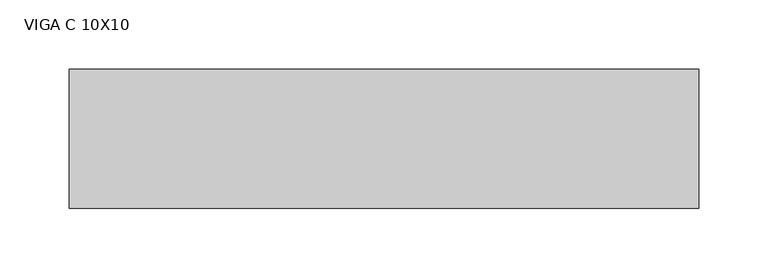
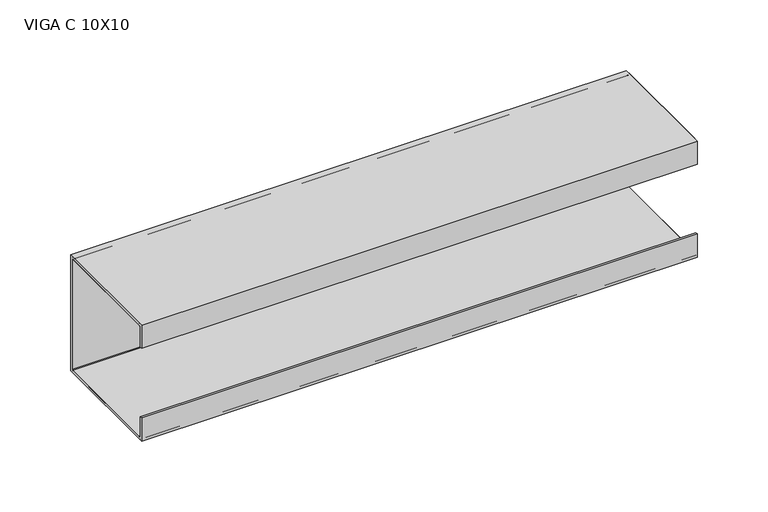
"""IFC4 building model written with IfcOpenShell, lengths in millimetres: beam geometry, VIGA PERFIL C AÇO : VIGA C 10X10."""

from ifc_helpers import new_model, si_unit, point, frame, frame_2d, origin, place, context, project, spatial, polyline, circle_curve, trimmed, segment, composite_curve, outline, extrude, source, transform, mapped, element, save


def viga_c_10x10_52a1ff37(model_context):
    return source(origin(), model_context, "Body", "SweptSolid", [
        extrude(outline(polyline([(9.2, -50.0), (-90.8, -50.0), (-90.8, -30.0), (-88.9, -30.0), (-88.9, -48.1), (7.3, -48.1), (7.3, 48.1), (-88.9, 48.1), (-88.9, 30.0), (-90.8, 30.0), (-90.8, 50.0), (9.2, 50.0), (9.2, -50.0)])), frame((-228.0, 0.0, 0.0), z_axis=(1.0, 0.0, 0.0), x_axis=(0.0, 1.0, 0.0)), (0.0, 0.0, 1.0), 453.0),
        extrude(outline(composite_curve([segment(trimmed(circle_curve(frame_2d((5.4, -46.2)), 3.8), [point((9.2, -46.2))], [point((5.4, -50.0))], False, "CARTESIAN"), True, "CONTINUOUS"), segment(polyline([(5.4, -50.0), (-87.0, -50.0)]), True, "CONTINUOUS"), segment(trimmed(circle_curve(frame_2d((-87.0, -46.2)), 3.8), [point((-87.0, -50.0))], [point((-90.8, -46.2))], False, "CARTESIAN"), True, "CONTINUOUS"), segment(polyline([(-90.8, -46.2), (-90.8, -30.0), (-88.9, -30.0), (-88.9, -46.2)]), True, "CONTINUOUS"), segment(trimmed(circle_curve(frame_2d((-87.0, -46.2)), 1.9), [point((-88.9, -46.2))], [point((-87.0, -48.1))], True, "CARTESIAN"), True, "CONTINUOUS"), segment(polyline([(-87.0, -48.1), (5.4, -48.1)]), True, "CONTINUOUS"), segment(trimmed(circle_curve(frame_2d((5.4, -46.2)), 1.9), [point((5.4, -48.1))], [point((7.3, -46.2))], True, "CARTESIAN"), True, "CONTINUOUS"), segment(polyline([(7.3, -46.2), (7.3, 46.2)]), True, "CONTINUOUS"), segment(trimmed(circle_curve(frame_2d((5.4, 46.2)), 1.9), [point((7.3, 46.2))], [point((5.4, 48.1))], True, "CARTESIAN"), True, "CONTINUOUS"), segment(polyline([(5.4, 48.1), (-87.0, 48.1)]), True, "CONTINUOUS"), segment(trimmed(circle_curve(frame_2d((-87.0, 46.2)), 1.9), [point((-87.0, 48.1))], [point((-88.9, 46.2))], True, "CARTESIAN"), True, "CONTINUOUS"), segment(polyline([(-88.9, 46.2), (-88.9, 30.0), (-90.8, 30.0), (-90.8, 46.2)]), True, "CONTINUOUS"), segment(trimmed(circle_curve(frame_2d((-87.0, 46.2)), 3.8), [point((-90.8, 46.2))], [point((-87.0, 50.0))], False, "CARTESIAN"), True, "CONTINUOUS"), segment(polyline([(-87.0, 50.0), (5.4, 50.0)]), True, "CONTINUOUS"), segment(trimmed(circle_curve(frame_2d((5.4, 46.2)), 3.8), [point((5.4, 50.0))], [point((9.2, 46.2))], False, "CARTESIAN"), True, "CONTINUOUS"), segment(polyline([(9.2, 46.2), (9.2, -46.2)]), True, "CONTINUOUS")], self_intersect=False)), frame((-228.0, 0.0, 0.0), z_axis=(1.0, 0.0, 0.0), x_axis=(0.0, 1.0, 0.0)), (0.0, 0.0, 1.0), 453.0),
    ])


if __name__ == "__main__":
    model = new_model("IFC4")
    model_context = context("Model", 3, world=origin())
    ifc_project = project(units=[si_unit("LENGTHUNIT", "METRE", prefix="MILLI")], contexts=[model_context])
    site = spatial("IfcSite", under=ifc_project)
    building = spatial("IfcBuilding", under=site)
    placement = place(None, origin())
    viga_c_10x10_shape = viga_c_10x10_52a1ff37(model_context)
    element("IfcBeam", 1, ObjectType="VIGA PERFIL C AÇO : VIGA C 10X10", at=placement, inside=building, context=model_context, shape_type="MappedRepresentation", body=[
        mapped(viga_c_10x10_shape, transform((0.0, 0.0, 0.0), x_axis=(1.0, 0.0, 0.0), y_axis=(0.0, 1.0, 0.0), z_axis=(0.0, 0.0, 1.0))),
    ])
    save(model, "model.ifc")
